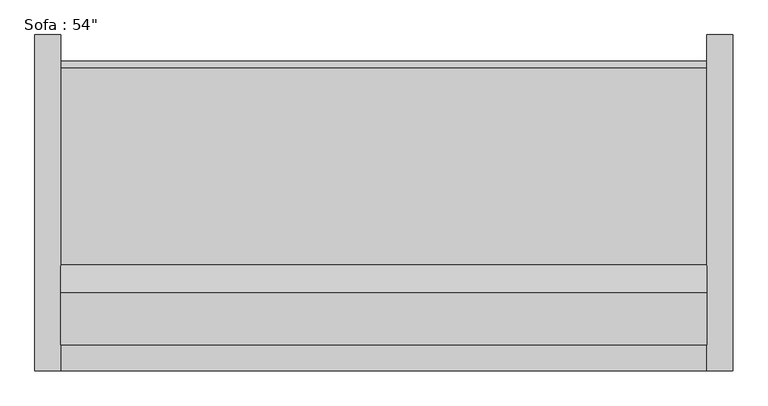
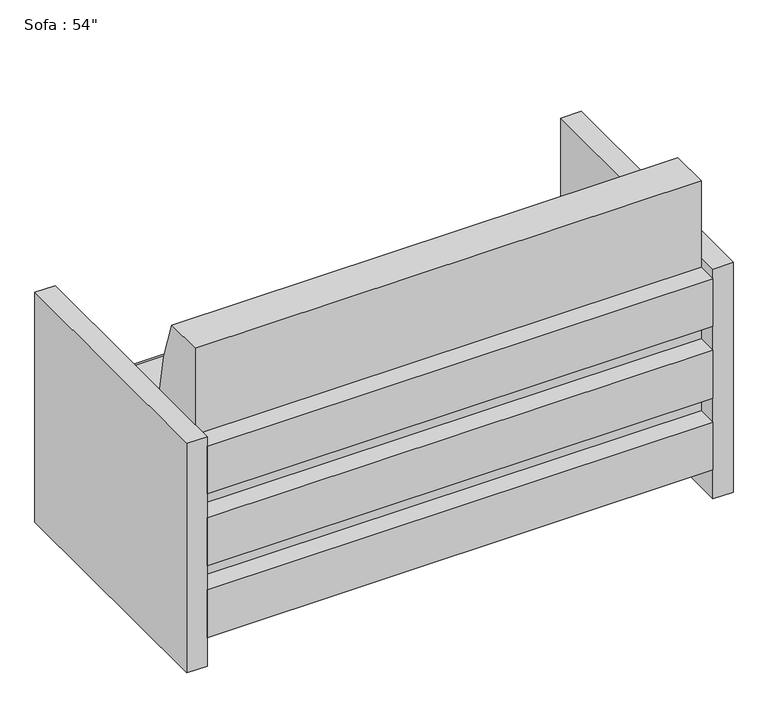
"""IFC4 building model written with IfcOpenShell, lengths in millimetres: furniture geometry."""

from ifc_helpers import new_model, si_unit, point, frame, frame_2d, origin, origin_with_axes, place, context, project, spatial, polyline, circle_curve, trimmed, segment, composite_curve, outline, extrude, source, transform, mapped, element, save


def furniture_8ec9ccbf(model_context):
    return source(origin(), model_context, "Body", "SweptSolid", [
        extrude(outline(polyline([(-564.6295082, -425.5540984), (705.3704918, -425.5540984), (705.3704918, -476.3540984), (-564.6295082, -476.3540984), (-564.6295082, -425.5540984)])), frame((0.0, 0.0, 457.2), z_axis=(0.0, 0.0, 1.0), x_axis=(1.0, 0.0, 0.0)), (0.0, 0.0, 1.0), 127.0),
        extrude(outline(polyline([(-564.6295082, -425.5540984), (705.3704918, -425.5540984), (705.3704918, -476.3540984), (-564.6295082, -476.3540984), (-564.6295082, -425.5540984)])), frame((0.0, 0.0, 266.7), z_axis=(0.0, 0.0, 1.0), x_axis=(1.0, 0.0, 0.0)), (0.0, 0.0, 1.0), 127.0),
        extrude(outline(polyline([(-564.6295082, -425.5540984), (705.3704918, -425.5540984), (705.3704918, -476.3540984), (-564.6295082, -476.3540984), (-564.6295082, -425.5540984)])), frame((0.0, 0.0, 76.2), z_axis=(0.0, 0.0, 1.0), x_axis=(1.0, 0.0, 0.0)), (0.0, 0.0, 1.0), 127.0),
        extrude(outline(composite_curve([segment(polyline([(-286.1764935, 381.0), (119.3862837, 381.0)]), True, "CONTINUOUS"), segment(trimmed(circle_curve(frame_2d((119.3862837, 368.3)), 12.7), [point((119.3862837, 381.0))], [point((132.0379563, 367.1931221))], False, "CARTESIAN"), True, "CONTINUOUS"), segment(polyline([(132.0379563, 367.1931221), (111.108343, 127.9665467), (-425.5540984, 127.9665467), (-425.5540984, 812.8), (-323.9540984, 812.8)]), True, "CONTINUOUS"), segment(trimmed(circle_curve(frame_2d((-926.517198, 542.5300036)), 660.4), [point((-323.9540984, 812.8))], [point((-286.1764935, 381.0))], False, "CARTESIAN"), True, "CONTINUOUS")], self_intersect=False)), frame((-564.6295082, 0.0, 0.0), z_axis=(1.0, 0.0, 0.0), x_axis=(0.0, 1.0, 0.0)), (0.0, 0.0, 1.0), 1270.0),
        extrude(outline(polyline([(-615.4295082, -476.3540984), (-615.4295082, 184.0459016), (-564.6295082, 184.0459016), (-564.6295082, -476.3540984), (-615.4295082, -476.3540984)])), origin_with_axes(), (0.0, 0.0, 1.0), 609.6),
        extrude(outline(polyline([(756.1704918, -476.3540984), (705.3704918, -476.3540984), (705.3704918, 184.0459016), (756.1704918, 184.0459016), (756.1704918, -476.3540984)])), origin_with_axes(), (0.0, 0.0, 1.0), 609.6),
    ])


if __name__ == "__main__":
    model = new_model("IFC4")
    model_context = context("Model", 3, world=origin())
    ifc_project = project(units=[si_unit("LENGTHUNIT", "METRE", prefix="MILLI")], contexts=[model_context])
    site = spatial("IfcSite", under=ifc_project)
    building = spatial("IfcBuilding", under=site)
    placement = place(None, origin())
    furniture_shape = furniture_8ec9ccbf(model_context)
    element("IfcFurniture", 1, ObjectType="Sofa : 54\"", at=placement, inside=building, context=model_context, shape_type="MappedRepresentation", body=[
        mapped(furniture_shape, transform((0.0, 0.0, 0.0), x_axis=(1.0, 0.0, 0.0), y_axis=(0.0, 1.0, 0.0), z_axis=(0.0, 0.0, 1.0))),
    ])
    save(model, "model.ifc")
